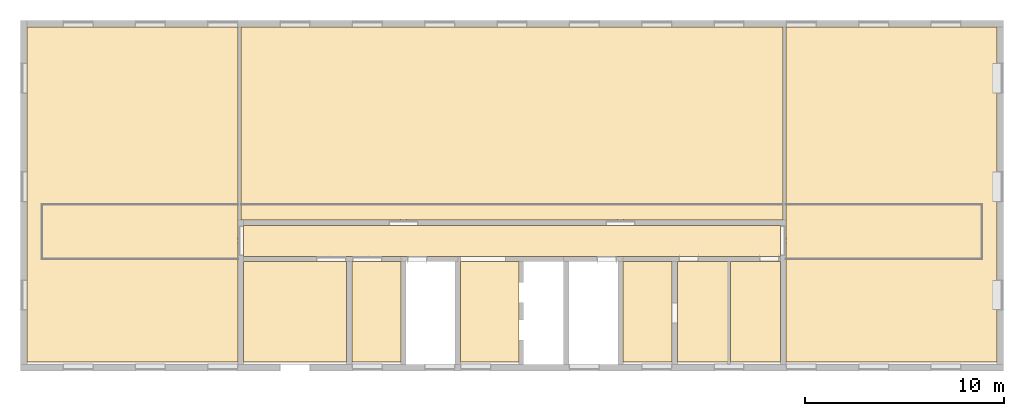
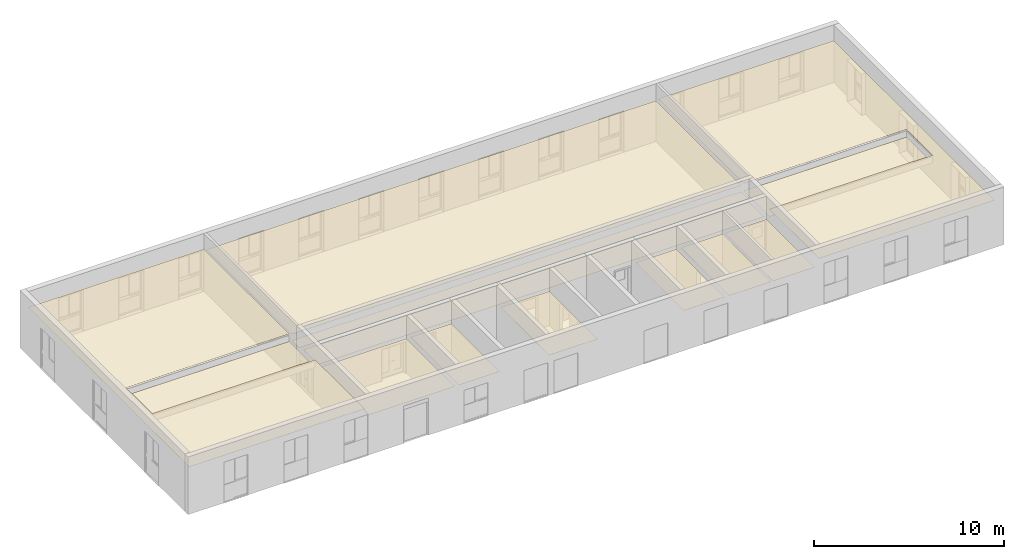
# One storey, part 15 of 15: 13 coverings.
"""IFC4X3 building model written with IfcOpenShell, lengths in millimetres."""

from ifc_helpers import new_model, entity, si_unit, converted_unit, derived_unit, direction, frame, frame_2d, origin, origin_2d_with_axis, place, context, subcontext, project, spatial, polyline, rectangle, outline, extrude, material, layer, layer_set, layer_usage, type_object, element, save


model = new_model("IFC4X3")

# Units and contexts
model_context = context("Model", 3, precision=0.01, world=origin(), true_north=direction((6.12303176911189e-17, 1.0)))
body_context = subcontext(model_context, "Body", "Model", "MODEL_VIEW")
ifc_project = project(units=[si_unit("LENGTHUNIT", "METRE", prefix="MILLI"), si_unit("AREAUNIT", "SQUARE_METRE"), si_unit("VOLUMEUNIT", "CUBIC_METRE"), converted_unit("PLANEANGLEUNIT", "DEGREE", entity("IfcPlaneAngleMeasure", 0.0174532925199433), si_unit("PLANEANGLEUNIT", "RADIAN"), dimensions=[0, 0, 0, 0, 0, 0, 0]), si_unit("MASSUNIT", "GRAM", prefix="KILO"), derived_unit("MASSDENSITYUNIT", [(si_unit("MASSUNIT", "GRAM", prefix="KILO"), 1), (si_unit("LENGTHUNIT", "METRE"), -3)]), derived_unit("IONCONCENTRATIONUNIT", [(si_unit("MASSUNIT", "GRAM", prefix="KILO"), 1), (si_unit("LENGTHUNIT", "METRE"), -3)]), derived_unit("MOMENTOFINERTIAUNIT", [(si_unit("LENGTHUNIT", "METRE"), 4)]), si_unit("TIMEUNIT", "SECOND"), si_unit("FREQUENCYUNIT", "HERTZ"), si_unit("THERMODYNAMICTEMPERATUREUNIT", "DEGREE_CELSIUS"), derived_unit("THERMALTRANSMITTANCEUNIT", [(si_unit("MASSUNIT", "GRAM", prefix="KILO"), 1), (si_unit("THERMODYNAMICTEMPERATUREUNIT", "KELVIN"), -1), (si_unit("TIMEUNIT", "SECOND"), -3)]), derived_unit("THERMALCONDUCTANCEUNIT", [(si_unit("MASSUNIT", "GRAM", prefix="KILO"), 1), (si_unit("THERMODYNAMICTEMPERATUREUNIT", "KELVIN"), -1), (si_unit("TIMEUNIT", "SECOND"), -3), (si_unit("LENGTHUNIT", "METRE"), 1)]), derived_unit("VOLUMETRICFLOWRATEUNIT", [(si_unit("LENGTHUNIT", "METRE", prefix="DECI"), 3), (si_unit("TIMEUNIT", "SECOND"), -1)]), derived_unit("MASSFLOWRATEUNIT", [(si_unit("MASSUNIT", "GRAM", prefix="KILO"), 1), (si_unit("TIMEUNIT", "SECOND"), -1)]), derived_unit("ROTATIONALFREQUENCYUNIT", [(si_unit("TIMEUNIT", "SECOND"), -1)]), si_unit("ELECTRICCURRENTUNIT", "AMPERE"), si_unit("ELECTRICVOLTAGEUNIT", "VOLT"), si_unit("POWERUNIT", "WATT"), si_unit("FORCEUNIT", "NEWTON", prefix="KILO"), si_unit("ILLUMINANCEUNIT", "LUX"), si_unit("LUMINOUSFLUXUNIT", "LUMEN"), si_unit("LUMINOUSINTENSITYUNIT", "CANDELA"), si_unit("ENERGYUNIT", "JOULE"), derived_unit("USERDEFINED", [(si_unit("MASSUNIT", "GRAM", prefix="KILO"), -1), (si_unit("LENGTHUNIT", "METRE"), -2), (si_unit("TIMEUNIT", "SECOND"), 3), (si_unit("LUMINOUSFLUXUNIT", "LUMEN"), 1)]), derived_unit("USERDEFINED", [(si_unit("MASSUNIT", "GRAM", prefix="KILO"), 1), (si_unit("TIMEUNIT", "SECOND"), -3), (si_unit("LENGTHUNIT", "METRE"), 3), (si_unit("ELECTRICCURRENTUNIT", "AMPERE"), -2)]), derived_unit("SOUNDPOWERUNIT", [(si_unit("MASSUNIT", "GRAM", prefix="KILO"), 1), (si_unit("TIMEUNIT", "SECOND"), -3), (si_unit("LENGTHUNIT", "METRE"), 2)]), derived_unit("SOUNDPRESSUREUNIT", [(si_unit("MASSUNIT", "GRAM", prefix="KILO"), 1), (si_unit("LENGTHUNIT", "METRE"), -1), (si_unit("TIMEUNIT", "SECOND"), -2)]), derived_unit("LINEARVELOCITYUNIT", [(si_unit("LENGTHUNIT", "METRE"), 1), (si_unit("TIMEUNIT", "SECOND"), -1)]), si_unit("PRESSUREUNIT", "PASCAL"), derived_unit("USERDEFINED", [(si_unit("MASSUNIT", "GRAM", prefix="KILO"), 1), (si_unit("LENGTHUNIT", "METRE"), -2), (si_unit("TIMEUNIT", "SECOND"), -2)]), derived_unit("LINEARFORCEUNIT", [(si_unit("MASSUNIT", "GRAM", prefix="KILO"), 1), (si_unit("TIMEUNIT", "SECOND"), -2)]), derived_unit("PLANARFORCEUNIT", [(si_unit("MASSUNIT", "GRAM", prefix="KILO"), 1), (si_unit("LENGTHUNIT", "METRE"), -1), (si_unit("TIMEUNIT", "SECOND"), -2)]), derived_unit("SPECIFICHEATCAPACITYUNIT", [(si_unit("THERMODYNAMICTEMPERATUREUNIT", "KELVIN"), -1), (si_unit("LENGTHUNIT", "METRE"), 2), (si_unit("TIMEUNIT", "SECOND"), -2)]), derived_unit("HEATFLUXDENSITYUNIT", [(si_unit("MASSUNIT", "GRAM", prefix="KILO"), 1), (si_unit("TIMEUNIT", "SECOND"), -3)]), derived_unit("HEATINGVALUEUNIT", [(si_unit("LENGTHUNIT", "METRE"), 2), (si_unit("TIMEUNIT", "SECOND"), -2)]), derived_unit("VAPORPERMEABILITYUNIT", [(si_unit("LENGTHUNIT", "METRE"), -1), (si_unit("TIMEUNIT", "SECOND"), 1)]), derived_unit("DYNAMICVISCOSITYUNIT", [(si_unit("MASSUNIT", "GRAM", prefix="KILO"), 1), (si_unit("TIMEUNIT", "SECOND"), -1), (si_unit("LENGTHUNIT", "METRE"), -1)]), derived_unit("THERMALEXPANSIONCOEFFICIENTUNIT", [(si_unit("THERMODYNAMICTEMPERATUREUNIT", "KELVIN"), -1)]), derived_unit("MODULUSOFELASTICITYUNIT", [(si_unit("MASSUNIT", "GRAM", prefix="KILO"), 1), (si_unit("LENGTHUNIT", "METRE"), -1), (si_unit("TIMEUNIT", "SECOND"), -2)]), derived_unit("ISOTHERMALMOISTURECAPACITYUNIT", [(si_unit("MASSUNIT", "GRAM", prefix="KILO"), -1), (si_unit("LENGTHUNIT", "METRE"), 3)]), derived_unit("MOISTUREDIFFUSIVITYUNIT", [(si_unit("TIMEUNIT", "SECOND"), -1), (si_unit("LENGTHUNIT", "METRE"), 2)]), derived_unit("AREADENSITYUNIT", [(si_unit("MASSUNIT", "GRAM", prefix="KILO"), 1), (si_unit("LENGTHUNIT", "METRE"), 2)]), derived_unit("MASSPERLENGTHUNIT", [(si_unit("MASSUNIT", "GRAM", prefix="KILO"), 1), (si_unit("LENGTHUNIT", "METRE"), -1)]), derived_unit("THERMALRESISTANCEUNIT", [(si_unit("MASSUNIT", "GRAM", prefix="KILO"), -1), (si_unit("TIMEUNIT", "SECOND"), 3), (si_unit("THERMODYNAMICTEMPERATUREUNIT", "KELVIN"), 1)]), derived_unit("ACCELERATIONUNIT", [(si_unit("LENGTHUNIT", "METRE"), 1), (si_unit("TIMEUNIT", "SECOND"), -2)]), derived_unit("ANGULARVELOCITYUNIT", [(si_unit("TIMEUNIT", "SECOND"), -1), (si_unit("PLANEANGLEUNIT", "RADIAN"), 1)]), derived_unit("LINEARSTIFFNESSUNIT", [(si_unit("MASSUNIT", "GRAM", prefix="KILO"), 1), (si_unit("TIMEUNIT", "SECOND"), -2)]), derived_unit("WARPINGCONSTANTUNIT", [(si_unit("LENGTHUNIT", "METRE"), 6)]), derived_unit("LINEARMOMENTUNIT", [(si_unit("MASSUNIT", "GRAM", prefix="KILO"), 1), (si_unit("LENGTHUNIT", "METRE"), 1), (si_unit("TIMEUNIT", "SECOND"), -2)]), derived_unit("TORQUEUNIT", [(si_unit("MASSUNIT", "GRAM", prefix="KILO"), 1), (si_unit("LENGTHUNIT", "METRE"), 2), (si_unit("TIMEUNIT", "SECOND"), -2)])], contexts=[model_context])

# Site, building, storey
site_placement = place(None, origin())
site = spatial("IfcSite", under=ifc_project, at=site_placement, Name="Default", CompositionType="ELEMENT")
building_placement = place(site_placement, origin())
building = spatial("IfcBuilding", under=site, at=building_placement, Name="事務所ビル", CompositionType="ELEMENT")
storey_placement = place(building_placement, frame((0.0, 0.0, 4300.0)))
storey = spatial("IfcBuildingStorey", under=building, at=storey_placement, Name="2FL", CompositionType="ELEMENT", Elevation=4300.0)

# Covering
ifc_material = material(Name="<Unnamed>")
ifc_layer = layer(ifc_material, 10.0, Name="Layer")
ifc_layer_set = layer_set([ifc_layer], Name="天井:(仕上)GB-Rt12.5+DR t12")
ifc_layer_usage_1 = layer_usage(ifc_layer_set, "AXIS3", "NEGATIVE", 0.0)
covering_type = type_object("IfcCoveringType", Name="天井:(仕上)GB-Rt12.5+DR t12", PredefinedType="CEILING")
covering_1_placement = place(storey_placement, frame((923.499999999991, 5460.0, 2200.0)))
element("IfcCovering", 1, at=covering_1_placement, inside=storey, type_object=covering_type, material=ifc_layer_usage_1, Name="天井:(仕上)GB-Rt12.5+DR t12", ObjectType="天井:(仕上)GB-Rt12.5+DR t12", PredefinedType="CEILING", context=body_context, shape_type="SweptSolid", body=[
    extrude(rectangle(XDim=9864.49999999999, YDim=2730.00000000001, at=frame_2d((0.0, 5.6843418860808e-13), x_axis=(1.0, 0.0))), frame((4932.25, 1365.0, 0.0)), (0.0, 0.0, 1.0), 9.99999999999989),
])

# Space
space_1_placement = place(storey_placement, origin())
space_1 = spatial("IfcSpace", under=storey, at=space_1_placement, Name="94", CompositionType="ELEMENT", PredefinedType="NOTDEFINED")

# Coverings
ifc_layer_usage_2 = layer_usage(ifc_layer_set, "AXIS3", "NEGATIVE", 0.0)
covering_2_placement = place(space_1_placement, frame((147.0, 260.0, 2680.0)))
element("IfcCovering", 2, at=covering_2_placement, inside=space_1, type_object=covering_type, material=ifc_layer_usage_2, Name="天井:(仕上)GB-Rt12.5+DR t12", ObjectType="天井:(仕上)GB-Rt12.5+DR t12", PredefinedType="CEILING", context=body_context, shape_type="SweptSolid", body=[
    extrude(outline(polyline([(-5129.75000000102, -9379.74999999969), (5511.24999999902, -9379.74999999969), (5511.25000000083, 7503.24999999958), (-5129.74999999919, 7503.25000000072), (-5129.74999999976, 2303.25000000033), (4748.25000000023, 2303.24999999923), (4748.24999999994, -426.750000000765), (-5129.75000000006, -426.749999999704), (-5129.75000000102, -9379.74999999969)])), frame((5511.25000000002, 7503.25000000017, 0.0), z_axis=(0.0, 0.0, 1.0), x_axis=(-1.0, 0.0, 0.0)), (0.0, 0.0, 1.0), 9.99999999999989),
])
ifc_layer_usage_3 = layer_usage(ifc_layer_set, "AXIS3", "NEGATIVE", 0.0)
covering_3_placement = place(storey_placement, frame((10938.0, 8190.0, 2600.0)))
element("IfcCovering", 3, at=covering_3_placement, inside=storey, type_object=covering_type, material=ifc_layer_usage_3, Name="天井:(仕上)GB-Rt12.5+DR t12", ObjectType="天井:(仕上)GB-Rt12.5+DR t12", PredefinedType="CEILING", context=body_context, shape_type="SweptSolid", body=[
    extrude(rectangle(XDim=8952.99999999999, YDim=27264.0, at=frame_2d((9.09494701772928e-13, 1.81898940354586e-12), x_axis=(1.0, 0.0))), frame((13632.0, 4476.50000000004, 0.0), z_axis=(0.0, 0.0, 1.0), x_axis=(0.0, 1.0, 0.0)), (0.0, 0.0, 1.0), 9.99999999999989),
])
ifc_layer_usage_4 = layer_usage(ifc_layer_set, "AXIS3", "NEGATIVE", 0.0)
covering_4_placement = place(storey_placement, frame((10938.0, 7412.0, 2200.0)))
element("IfcCovering", 4, at=covering_4_placement, inside=storey, type_object=covering_type, material=ifc_layer_usage_4, Name="天井:(仕上)GB-Rt12.5+DR t12", ObjectType="天井:(仕上)GB-Rt12.5+DR t12", PredefinedType="CEILING", context=body_context, shape_type="SweptSolid", body=[
    extrude(rectangle(XDim=27264.0, YDim=778.000000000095, at=frame_2d((0.0, -5.40012479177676e-13), x_axis=(1.0, 0.0))), frame((13632.0, 389.0, 0.0), z_axis=(0.0, 0.0, 1.0), x_axis=(-1.0, 0.0, 0.0)), (0.0, 0.0, 1.0), 9.99999999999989),
])
ifc_layer_usage_5 = layer_usage(ifc_layer_set, "AXIS3", "NEGATIVE", 0.0)
covering_5_placement = place(storey_placement, frame((38352.0, 5460.0, 2200.0)))
element("IfcCovering", 5, at=covering_5_placement, inside=storey, type_object=covering_type, material=ifc_layer_usage_5, Name="天井:(仕上)GB-Rt12.5+DR t12", ObjectType="天井:(仕上)GB-Rt12.5+DR t12", PredefinedType="CEILING", context=body_context, shape_type="SweptSolid", body=[
    extrude(rectangle(XDim=9877.99999999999, YDim=2730.00000000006, at=origin_2d_with_axis()), frame((4939.0, 1365.0, 0.0), z_axis=(0.0, 0.0, 1.0), x_axis=(-1.0, 0.0, 0.0)), (0.0, 0.0, 1.0), 9.99999999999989),
])

# Space
space_2_placement = place(storey_placement, origin())
space_2 = spatial("IfcSpace", under=storey, at=space_2_placement, Name="104", CompositionType="ELEMENT", PredefinedType="NOTDEFINED")

# Coverings
ifc_layer_usage_6 = layer_usage(ifc_layer_set, "AXIS3", "NEGATIVE", 0.0)
covering_6_placement = place(space_2_placement, frame((11052.0, 5592.0, 2200.0)))
element("IfcCovering", 6, at=covering_6_placement, inside=space_2, type_object=covering_type, material=ifc_layer_usage_6, Name="天井:(仕上)GB-Rt12.5+DR t12", ObjectType="天井:(仕上)GB-Rt12.5+DR t12", PredefinedType="CEILING", context=body_context, shape_type="SweptSolid", body=[
    extrude(rectangle(XDim=1555.99999999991, YDim=27036.0, at=frame_2d((5.11590769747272e-13, -3.63797880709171e-12), x_axis=(1.0, 0.0))), frame((13518.0, 778.0, 0.0), z_axis=(0.0, 0.0, 1.0), x_axis=(0.0, -1.0, 0.0)), (0.0, 0.0, 1.0), 9.99999999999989),
])
ifc_layer_usage_7 = layer_usage(ifc_layer_set, "AXIS3", "NEGATIVE", 0.0)
covering_7_placement = place(storey_placement, frame((11052.0, 260.0, 2200.0)))
element("IfcCovering", 7, at=covering_7_placement, inside=storey, type_object=covering_type, material=ifc_layer_usage_7, Name="天井:(仕上)GB-Rt12.5+DR t12", ObjectType="天井:(仕上)GB-Rt12.5+DR t12", PredefinedType="CEILING", context=body_context, shape_type="SweptSolid", body=[
    extrude(rectangle(XDim=5196.00000000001, YDim=5068.00000000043, at=origin_2d_with_axis()), frame((2598.0, 2534.0, 0.0), z_axis=(0.0, 0.0, 1.0), x_axis=(-1.0, 0.0, 0.0)), (0.0, 0.0, 1.0), 9.99999999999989),
])

# Space
space_3_placement = place(storey_placement, origin())
space_3 = spatial("IfcSpace", under=storey, at=space_3_placement, Name="98", CompositionType="ELEMENT", PredefinedType="NOTDEFINED")

# Covering
ifc_layer_usage_8 = layer_usage(ifc_layer_set, "AXIS3", "NEGATIVE", 0.0)
covering_8_placement = place(space_3_placement, frame((16512.0, 260.0, 2200.0)))
element("IfcCovering", 8, at=covering_8_placement, inside=space_3, type_object=covering_type, material=ifc_layer_usage_8, Name="天井:(仕上)GB-Rt12.5+DR t12", ObjectType="天井:(仕上)GB-Rt12.5+DR t12", PredefinedType="CEILING", context=body_context, shape_type="SweptSolid", body=[
    extrude(rectangle(XDim=2466.00000000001, YDim=5068.00000000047, at=frame_2d((-1.02318153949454e-12, 6.82121026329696e-13), x_axis=(1.0, 0.0))), frame((1233.0, 2534.0, 0.0), z_axis=(0.0, 0.0, 1.0), x_axis=(-1.0, 0.0, 0.0)), (0.0, 0.0, 1.0), 9.99999999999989),
])

# Space
space_4_placement = place(storey_placement, origin())
space_4 = spatial("IfcSpace", under=storey, at=space_4_placement, Name="100", CompositionType="ELEMENT", PredefinedType="NOTDEFINED")

# Coverings
ifc_layer_usage_9 = layer_usage(ifc_layer_set, "AXIS3", "NEGATIVE", 0.0)
covering_9_placement = place(space_4_placement, frame((21972.0, 260.0, 2200.0)))
element("IfcCovering", 9, at=covering_9_placement, inside=space_4, type_object=covering_type, material=ifc_layer_usage_9, Name="天井:(仕上)GB-Rt12.5+DR t12", ObjectType="天井:(仕上)GB-Rt12.5+DR t12", PredefinedType="CEILING", context=body_context, shape_type="SweptSolid", body=[
    extrude(rectangle(XDim=2948.00000000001, YDim=5068.00000000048, at=frame_2d((2.1600499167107e-12, 3.5242919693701e-11), x_axis=(1.0, 0.0))), frame((1474.0, 2534.0, 0.0), z_axis=(0.0, 0.0, 1.0), x_axis=(-1.0, 0.0, 0.0)), (0.0, 0.0, 1.0), 9.99999999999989),
])
ifc_layer_usage_10 = layer_usage(ifc_layer_set, "AXIS3", "NEGATIVE", 0.0)
covering_10_placement = place(storey_placement, frame((30162.0, 260.0, 2200.0)))
element("IfcCovering", 10, at=covering_10_placement, inside=storey, type_object=covering_type, material=ifc_layer_usage_10, Name="天井:(仕上)GB-Rt12.5+DR t12", ObjectType="天井:(仕上)GB-Rt12.5+DR t12", PredefinedType="CEILING", context=body_context, shape_type="SweptSolid", body=[
    extrude(rectangle(XDim=2466.0, YDim=5068.00000000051, at=frame_2d((-2.1600499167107e-12, 6.82121026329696e-13), x_axis=(1.0, 0.0))), frame((1233.0, 2534.0, 0.0), z_axis=(0.0, 0.0, 1.0), x_axis=(-1.0, 0.0, 0.0)), (0.0, 0.0, 1.0), 9.99999999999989),
])

# Space
space_5_placement = place(storey_placement, origin())
space_5 = spatial("IfcSpace", under=storey, at=space_5_placement, Name="102", CompositionType="ELEMENT", PredefinedType="NOTDEFINED")

# Covering
ifc_layer_usage_11 = layer_usage(ifc_layer_set, "AXIS3", "NEGATIVE", 0.0)
covering_11_placement = place(space_5_placement, frame((32892.0, 260.0, 2200.0)))
element("IfcCovering", 11, at=covering_11_placement, inside=space_5, type_object=covering_type, material=ifc_layer_usage_11, Name="天井:(仕上)GB-Rt12.5+DR t12", ObjectType="天井:(仕上)GB-Rt12.5+DR t12", PredefinedType="CEILING", context=body_context, shape_type="SweptSolid", body=[
    extrude(rectangle(XDim=2538.00000000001, YDim=5068.00000000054, at=frame_2d((0.0, 6.82121026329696e-13), x_axis=(1.0, 0.0))), frame((1269.0, 2534.0, 0.0), z_axis=(0.0, 0.0, 1.0), x_axis=(-1.0, 0.0, 0.0)), (0.0, 0.0, 1.0), 9.99999999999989),
])

# Space
space_6_placement = place(storey_placement, origin())
space_6 = spatial("IfcSpace", under=storey, at=space_6_placement, Name="103", CompositionType="ELEMENT", PredefinedType="NOTDEFINED")

# Covering
ifc_layer_usage_12 = layer_usage(ifc_layer_set, "AXIS3", "NEGATIVE", 0.0)
covering_12_placement = place(space_6_placement, frame((35565.0, 260.0, 2200.0)))
element("IfcCovering", 12, at=covering_12_placement, inside=space_6, type_object=covering_type, material=ifc_layer_usage_12, Name="天井:(仕上)GB-Rt12.5+DR t12", ObjectType="天井:(仕上)GB-Rt12.5+DR t12", PredefinedType="CEILING", context=body_context, shape_type="SweptSolid", body=[
    extrude(rectangle(XDim=2523.0, YDim=5068.00000000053, at=frame_2d((2.1600499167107e-12, 6.82121026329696e-13), x_axis=(1.0, 0.0))), frame((1261.5, 2534.0, 0.0), z_axis=(0.0, 0.0, 1.0), x_axis=(-1.0, 0.0, 0.0)), (0.0, 0.0, 1.0), 9.99999999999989),
])

# Space
space_7_placement = place(storey_placement, origin())
space_7 = spatial("IfcSpace", under=storey, at=space_7_placement, Name="96", CompositionType="ELEMENT", PredefinedType="NOTDEFINED")

# Covering
ifc_layer_usage_13 = layer_usage(ifc_layer_set, "AXIS3", "NEGATIVE", 0.0)
covering_13_placement = place(space_7_placement, frame((38352.0, 260.0, 2680.0)))
element("IfcCovering", 13, at=covering_13_placement, inside=space_7, type_object=covering_type, material=ifc_layer_usage_13, Name="天井:(仕上)GB-Rt12.5+DR t12", ObjectType="天井:(仕上)GB-Rt12.5+DR t12", PredefinedType="CEILING", context=body_context, shape_type="SweptSolid", body=[
    extrude(outline(polyline([(-9379.75000000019, -5129.75000000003), (-426.750000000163, -5129.75000000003), (-426.750000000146, 4748.24999999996), (2303.24999999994, 4748.24999999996), (2303.24999999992, -5129.75000000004), (7503.25000000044, -5129.75000000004), (7503.25000000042, 5511.25000000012), (-9379.75000000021, 5511.25000000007), (-9379.75000000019, -5129.75000000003)])), frame((5129.75000000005, 7503.25000000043, 0.0), z_axis=(0.0, 0.0, 1.0), x_axis=(0.0, -1.0, 0.0)), (0.0, 0.0, 1.0), 9.99999999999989),
])

save(model, "model.ifc")
